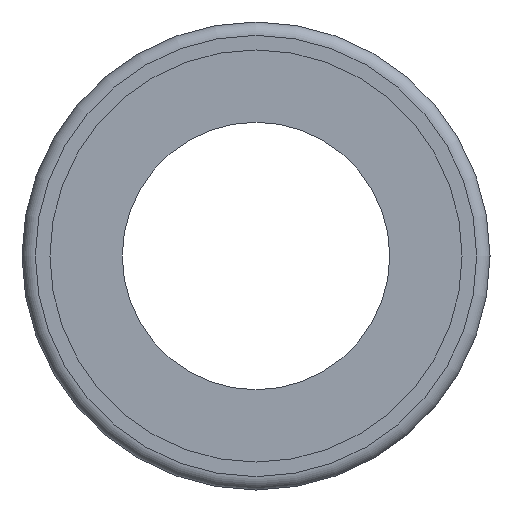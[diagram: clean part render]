
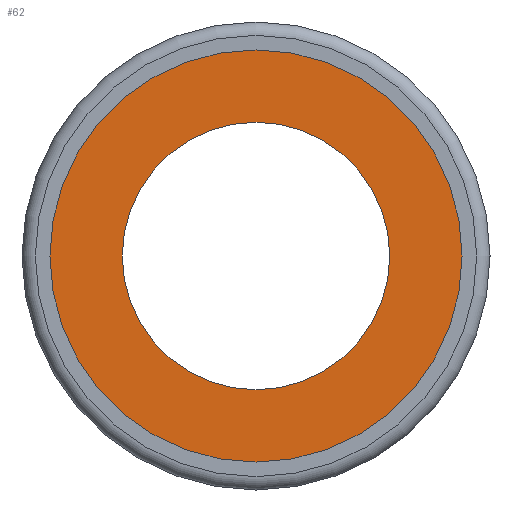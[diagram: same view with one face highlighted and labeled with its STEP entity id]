
A CAD part, left-side view. The second image highlights one B-rep face of the part: STEP entity #62.
In plain terms, the highlighted planar face has unit normal (-1, 0, 0).
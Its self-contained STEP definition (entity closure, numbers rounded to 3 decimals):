
#62 = ADVANCED_FACE( '', ( #135, #136 ), #137, .T. );
#135 = FACE_BOUND( '', #214, .T. );
#136 = FACE_OUTER_BOUND( '', #215, .T. );
#137 = PLANE( '', #216 );
#214 = EDGE_LOOP( '', ( #307 ) );
#215 = EDGE_LOOP( '', ( #308 ) );
#216 = AXIS2_PLACEMENT_3D( '', #309, #310, #311 );
#307 = ORIENTED_EDGE( '', *, *, #359, .F. );
#308 = ORIENTED_EDGE( '', *, *, #364, .T. );
#309 = CARTESIAN_POINT( '', ( 3.5, 10.165, 0. ) );
#310 = DIRECTION( '', ( -1., 0., 0. ) );
#311 = DIRECTION( '', ( 0., 1., 0. ) );
#359 = EDGE_CURVE( '', #398, #398, #399, .T. );
#364 = EDGE_CURVE( '', #406, #406, #407, .T. );
#398 = VERTEX_POINT( '', #452 );
#399 = CIRCLE( '', #453, 8. );
#406 = VERTEX_POINT( '', #460 );
#407 = CIRCLE( '', #461, 12.33 );
#452 = CARTESIAN_POINT( '', ( 3.5, 0., 8. ) );
#453 = AXIS2_PLACEMENT_3D( '', #507, #508, #509 );
#460 = CARTESIAN_POINT( '', ( 3.5, 0., 12.33 ) );
#461 = AXIS2_PLACEMENT_3D( '', #516, #517, #518 );
#507 = CARTESIAN_POINT( '', ( 3.5, 0., 0. ) );
#508 = DIRECTION( '', ( -1., 0., 0. ) );
#509 = DIRECTION( '', ( 0., 0., 1. ) );
#516 = CARTESIAN_POINT( '', ( 3.5, 0., 0. ) );
#517 = DIRECTION( '', ( -1., 0., 0. ) );
#518 = DIRECTION( '', ( 0., 0., 1. ) );
